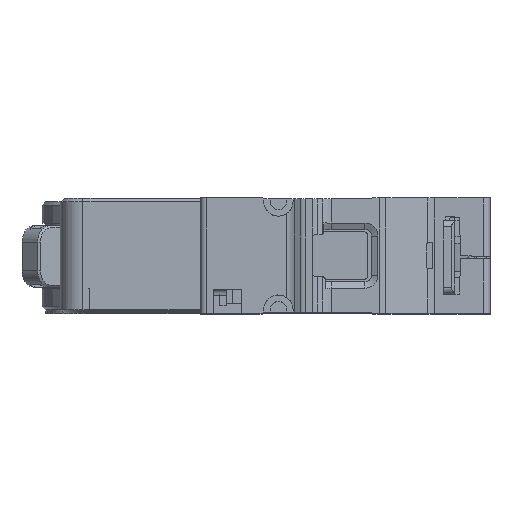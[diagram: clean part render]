
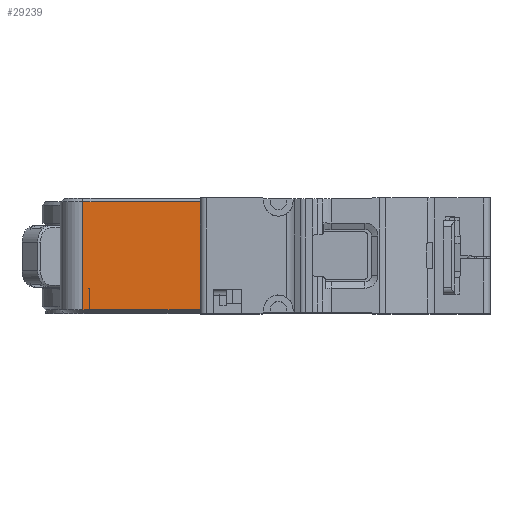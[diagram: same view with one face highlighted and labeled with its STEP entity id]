
A CAD part, top view. The second image highlights one B-rep face of the part: STEP entity #29239.
In plain terms, the highlighted planar face has unit normal (0, 0, 1).
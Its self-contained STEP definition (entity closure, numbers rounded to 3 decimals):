
#1747=DIRECTION('',(0.,-1.,0.));
#1748=VECTOR('',#1747,3.3);
#1749=CARTESIAN_POINT('',(-10.05,3.85,30.));
#1750=LINE('',#1749,#1748);
#1751=DIRECTION('',(-1.,0.,0.));
#1752=VECTOR('',#1751,0.95);
#1753=CARTESIAN_POINT('',(-10.05,0.55,
30.));
#1754=LINE('',#1753,#1752);
#1755=DIRECTION('',(1.,0.,0.));
#1756=VECTOR('',#1755,18.);
#1757=CARTESIAN_POINT('',(-11.,17.15,30.));
#1758=LINE('',#1757,#1756);
#1759=DIRECTION('',(0.,-1.,0.));
#1760=VECTOR('',#1759,16.6);
#1761=CARTESIAN_POINT('',(7.,17.15,30.));
#1762=LINE('',#1761,#1760);
#1767=DIRECTION('',(0.,-1.,0.));
#1768=VECTOR('',#1767,3.3);
#1769=CARTESIAN_POINT('',(-10.,3.85,30.));
#1770=LINE('',#1769,#1768);
#1787=DIRECTION('',(1.,0.,0.));
#1788=VECTOR('',#1787,0.05);
#1789=CARTESIAN_POINT('',(-10.05,3.85,30.));
#1790=LINE('',#1789,#1788);
#1820=DIRECTION('',(0.,-1.,0.));
#1821=VECTOR('',#1820,16.6);
#1822=CARTESIAN_POINT('',(-11.,17.15,30.));
#1823=LINE('',#1822,#1821);
#20390=DIRECTION('',(1.,0.,0.));
#20391=VECTOR('',#20390,17.);
#20392=CARTESIAN_POINT('',(-10.,0.55,30.));
#20393=LINE('',#20392,#20391);
#21520=CARTESIAN_POINT('',(7.,0.55,30.));
#21521=VERTEX_POINT('',#21520);
#22427=CARTESIAN_POINT('',(-10.,0.55,30.));
#22428=VERTEX_POINT('',#22427);
#24523=CARTESIAN_POINT('',(7.,17.15,30.));
#24524=VERTEX_POINT('',#24523);
#25918=CARTESIAN_POINT('',(-10.05,3.85,30.));
#25920=VERTEX_POINT('',#25918);
#25921=CARTESIAN_POINT('',(-10.05,0.55,
30.));
#25922=VERTEX_POINT('',#25921);
#25931=CARTESIAN_POINT('',(-11.,0.55,
30.));
#25932=VERTEX_POINT('',#25931);
#25933=CARTESIAN_POINT('',(-11.,17.15,
30.));
#25934=VERTEX_POINT('',#25933);
#26863=CARTESIAN_POINT('',(-10.,3.85,30.));
#26865=VERTEX_POINT('',#26863);
#29217=CARTESIAN_POINT('',(-14.,0.,30.));
#29218=DIRECTION('',(0.,0.,1.));
#29219=DIRECTION('',(1.,0.,0.));
#29220=AXIS2_PLACEMENT_3D('',#29217,#29218,#29219);
#29221=PLANE('',#29220);
#29223=ORIENTED_EDGE('',*,*,#29222,.F.);
#29225=ORIENTED_EDGE('',*,*,#29224,.F.);
#29227=ORIENTED_EDGE('',*,*,#29226,.T.);
#29229=ORIENTED_EDGE('',*,*,#29228,.T.);
#29231=ORIENTED_EDGE('',*,*,#29230,.F.);
#29233=ORIENTED_EDGE('',*,*,#29232,.T.);
#29234=ORIENTED_EDGE('',*,*,#29198,.T.);
#29236=ORIENTED_EDGE('',*,*,#29235,.F.);
#29237=EDGE_LOOP('',(#29223,#29225,#29227,#29229,#29231,#29233,#29234,#29236));
#29238=FACE_OUTER_BOUND('',#29237,.F.);
#29239=ADVANCED_FACE('',(#29238),#29221,.T.);
#29198=EDGE_CURVE('',#24524,#21521,#1762,.T.);
#29222=EDGE_CURVE('',#26865,#22428,#1770,.T.);
#29224=EDGE_CURVE('',#25920,#26865,#1790,.T.);
#29226=EDGE_CURVE('',#25920,#25922,#1750,.T.);
#29228=EDGE_CURVE('',#25922,#25932,#1754,.T.);
#29230=EDGE_CURVE('',#25934,#25932,#1823,.T.);
#29232=EDGE_CURVE('',#25934,#24524,#1758,.T.);
#29235=EDGE_CURVE('',#22428,#21521,#20393,.T.);
